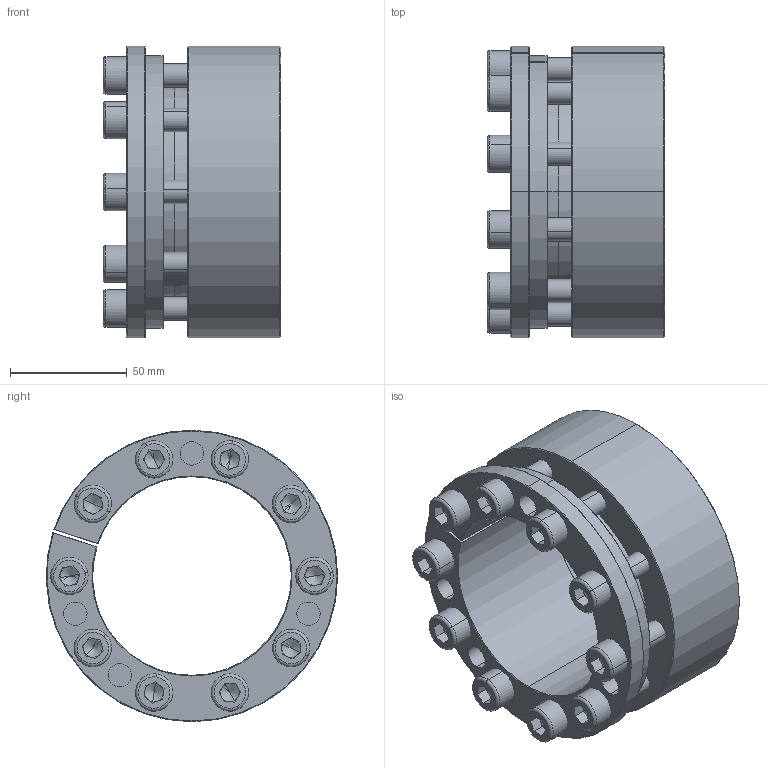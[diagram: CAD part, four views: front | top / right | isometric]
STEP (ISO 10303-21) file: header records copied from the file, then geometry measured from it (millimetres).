
FILE_DESCRIPTION (( 'STEP AP214' ), '1' );
FILE_NAME ('PL-H2 85-125.STEP', '2022-07-25T02:24:30', ( '' ), ( '' ), 'SwSTEP 2.0', 'SolidWorks 2022', '' );
FILE_SCHEMA (( 'AUTOMOTIVE_DESIGN' ));
Length unit declared in the file: millimetre
Products named in the file (1): PL-H2 85-125
Bounding box: 76.19 x 124.83 x 124.88 mm (x, y, z)
Volume: 360032.6 mm3; surface area: 96406.1 mm2
Topology: 1 solids, 1 shells, 357 faces, 873 edges, 538 vertices
Faces by surface type: plane 158, cylinder 103, cone 76, torus 20
Entity records: 10510 total; most frequent: DIRECTION 1950, CARTESIAN_POINT 1821, ORIENTED_EDGE 1706, EDGE_CURVE 853, AXIS2_PLACEMENT_3D 763, VERTEX_POINT 538, EDGE_LOOP 425, VECTOR 424
